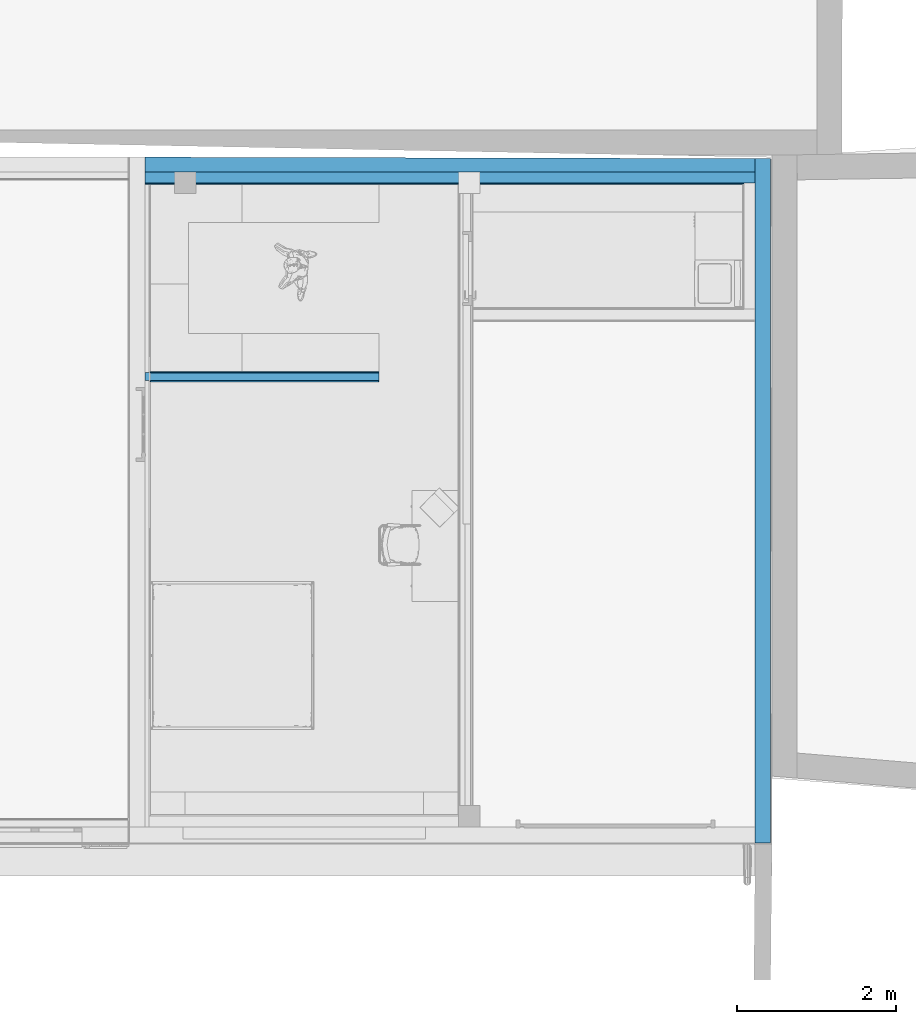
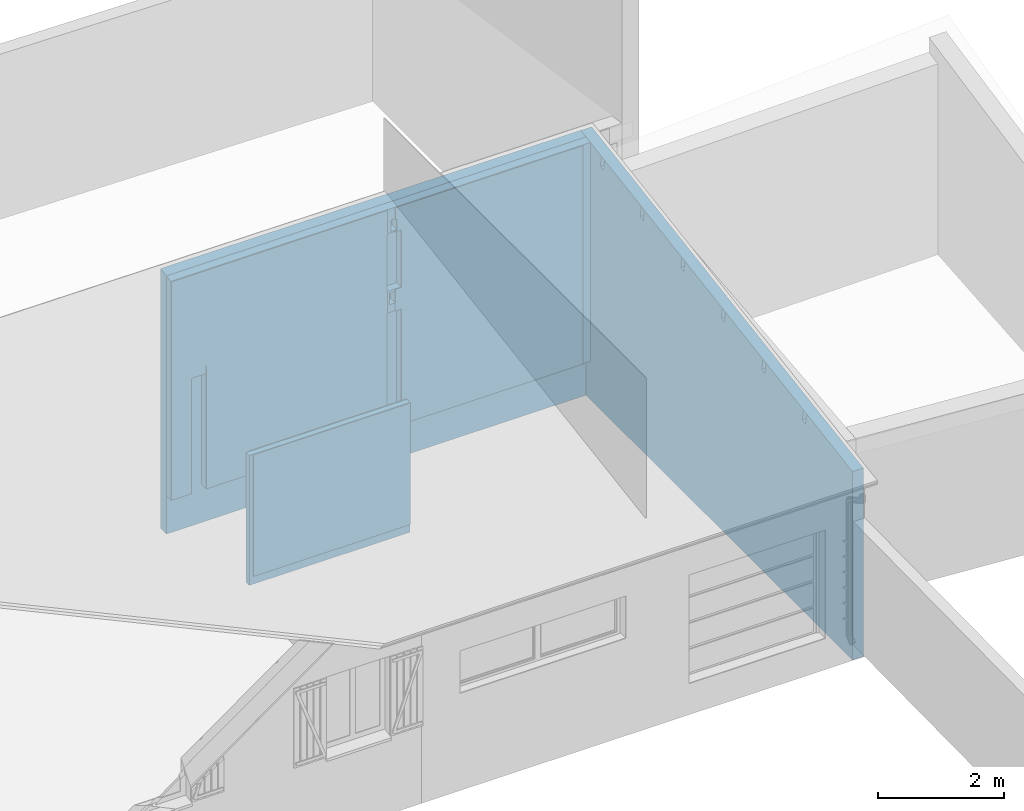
# One storey, part 16 of 24: 7 building element parts, 4 elements without a shape of their own.
"""IFC2X3 building model written with IfcOpenShell, lengths in metres."""

from ifc_helpers import new_model, entity, si_unit, converted_unit, derived_unit, money_unit, direction, frame, origin_with_axes, place, context, subcontext, project, spatial, polyline, outline, extrude, boolean, faceted_brep, material, type_object, element, aggregate, save


model = new_model("IFC2X3")

# Units and contexts
model_context = context("Model", 3, precision=1e-05, world=origin_with_axes(), true_north=direction((0.0, 1.0)))
body_context = subcontext(model_context, "Body", "Model", "MODEL_VIEW")
ifc_project = project(units=[si_unit("LENGTHUNIT", "METRE"), si_unit("AREAUNIT", "SQUARE_METRE"), si_unit("VOLUMEUNIT", "CUBIC_METRE"), converted_unit("PLANEANGLEUNIT", "DEGREE", entity("IfcPlaneAngleMeasure", 0.0174532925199), si_unit("PLANEANGLEUNIT", "RADIAN"), dimensions=[0, 0, 0, 0, 0, 0, 0]), si_unit("SOLIDANGLEUNIT", "STERADIAN"), money_unit("CHF"), converted_unit("TIMEUNIT", "Year", entity("IfcTimeMeasure", 31556926.0), si_unit("TIMEUNIT", "SECOND"), dimensions=[0, 0, 1, 0, 0, 0, 0]), si_unit("MASSUNIT", "GRAM", prefix="KILO"), si_unit("THERMODYNAMICTEMPERATUREUNIT", "DEGREE_CELSIUS"), si_unit("LUMINOUSINTENSITYUNIT", "LUMEN"), si_unit("ENERGYUNIT", "JOULE", prefix="MEGA"), derived_unit("THERMALCONDUCTANCEUNIT", [(si_unit("POWERUNIT", "WATT"), 1), (si_unit("LENGTHUNIT", "METRE"), -1), (si_unit("THERMODYNAMICTEMPERATUREUNIT", "KELVIN"), -1)]), derived_unit("SPECIFICHEATCAPACITYUNIT", [(si_unit("ENERGYUNIT", "JOULE"), 1), (si_unit("MASSUNIT", "GRAM", prefix="KILO"), -1), (si_unit("THERMODYNAMICTEMPERATUREUNIT", "KELVIN"), -1)]), derived_unit("MASSDENSITYUNIT", [(si_unit("MASSUNIT", "GRAM", prefix="KILO"), 1), (si_unit("VOLUMEUNIT", "CUBIC_METRE"), -1)])], contexts=[model_context])

# Site, building, storey
site_placement = place(None, origin_with_axes())
site = spatial("IfcSite", under=ifc_project, at=site_placement, Name="Site", CompositionType="ELEMENT")
building_placement = place(site_placement, origin_with_axes())
building = spatial("IfcBuilding", under=site, at=building_placement, Name="Bâtiment", CompositionType="ELEMENT")
storey_placement = place(building_placement, origin_with_axes())
storey = spatial("IfcBuildingStorey", under=building, at=storey_placement, Name="Rez-de-chaussée", CompositionType="ELEMENT", Elevation=0.0)

# Wall, building element part
wall_type_1 = type_object("IfcWallType", Name="0.0 - Mur ext: revét ext + maçonnerie 215", PredefinedType="ELEMENTEDWALL")
wall_1_placement = place(storey_placement, frame((23.6021417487, 16.1929346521, -0.6), z_axis=(0.0, 0.0, 1.0), x_axis=(1.0, 0.0, 0.0)))
wall_1 = element("IfcWall", 1, at=wall_1_placement, inside=storey, type_object=wall_type_1, Name="MUR_EXT-004", ObjectType="ELEMENTEDWALL")
ifc_material_1 = material(Name="Brique ciment (extérieur)")
building_element_part_1_placement = place(wall_1_placement, origin_with_axes())
building_element_part_1 = element("IfcBuildingElementPart", 2, at=building_element_part_1_placement, material=ifc_material_1, Name="Brique ciment (extérieur)", context=body_context, shape_type="CSG", body=[
    boolean("DIFFERENCE", boolean("DIFFERENCE", extrude(outline(polyline([(-0.215, 0.0), (7.885, 0.0), (7.885, 0.2), (-0.215, 0.2), (-0.215, 0.0)])), origin_with_axes(), (0.0, 0.0, 1.0), 5.5967588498), faceted_brep([(0.0, 0.186019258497, 0.0), (0.0, 0.0, 0.0), (-0.215, 0.0, 0.0), (-0.215, 0.2, 0.0), (7.885, 0.2, 0.0), (7.885, 0.0, 0.0), (7.67, 0.0, 0.0), (7.67, 0.168143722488, 0.0), (0.0, 0.186019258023, 5.02256308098), (0.0, 0.0, 4.9927999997), (7.67, 0.0, 4.9927999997), (7.885, 0.0, 5.5967588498), (-0.215, 0.0, 5.5967588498), (-0.215, 0.2, 5.5967588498), (7.885, 0.2, 5.5967588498), (7.67, 0.168143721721, 5.01970299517)], [[[0, 1, 2, 3, 4, 5, 6, 7]], [[1, 0, 8, 9]], [[10, 6, 5, 11, 12, 2, 1, 9]], [[13, 3, 2, 12]], [[14, 4, 3, 13]], [[11, 5, 4, 14]], [[7, 6, 10, 15]], [[0, 7, 15, 8]], [[10, 9, 8, 15]], [[13, 12, 11, 14]]])), faceted_brep([(-0.215, 0.2, 5.5967588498), (-0.215, 0.2, 0.0), (7.885, 0.2, 0.0), (7.885, 0.2, 5.5967588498), (-0.215, 0.215, 5.5967588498), (-0.215, 0.215, 0.0), (7.885, 0.215, 0.0), (7.885, 0.215, 5.5967588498)], [[[0, 1, 2, 3]], [[4, 5, 1, 0]], [[2, 1, 5, 6]], [[3, 2, 6, 7]], [[4, 0, 3, 7]], [[7, 6, 5, 4]]])),
])
aggregate(wall_1, [building_element_part_1])

wall_2_placement = place(storey_placement, frame((31.2721417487, 16.1929346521, -0.6), z_axis=(0.0, 0.0, 1.0), x_axis=(0.0, -1.0, 0.0)))
wall_2 = element("IfcWall", 3, at=wall_2_placement, inside=storey, type_object=wall_type_1, Name="MUR_EXT-001", ObjectType="ELEMENTEDWALL")
building_element_part_2_placement = place(wall_2_placement, origin_with_axes())
building_element_part_2 = element("IfcBuildingElementPart", 4, at=building_element_part_2_placement, material=ifc_material_1, Name="Brique ciment (extérieur)", context=body_context, shape_type="CSG", body=[
    boolean("DIFFERENCE", boolean("DIFFERENCE", boolean("DIFFERENCE", boolean("DIFFERENCE", boolean("DIFFERENCE", boolean("DIFFERENCE", boolean("DIFFERENCE", boolean("DIFFERENCE", extrude(outline(polyline([(-0.215, 0.0), (8.455, 0.0), (8.455, 0.2), (-0.215, 0.2), (-0.215, 0.0)])), origin_with_axes(), (0.0, 0.0, 1.0), 5.5967588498), faceted_brep([(6.98500770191, 0.0, 3.87376334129), (6.88626356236, 0.0, 3.88956191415), (6.85150670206, 0.0, 3.67232480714), (6.95025084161, 0.0, 3.65652623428), (6.98500770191, 0.0733046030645, 3.87376334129), (6.88626356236, 0.0733046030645, 3.88956191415), (6.85150670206, 0.0733046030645, 3.67232480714), (6.95025084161, 0.0733046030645, 3.65652623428)], [[[0, 1, 2, 3]], [[1, 0, 4, 5]], [[2, 1, 5, 6]], [[3, 2, 6, 7]], [[0, 3, 7, 4]], [[4, 7, 6, 5]]])), faceted_brep([(5.70133388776, 0.0, 4.0791447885), (5.60258974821, 0.0, 4.09494336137), (5.56783288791, 0.0, 3.87770625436), (5.66657702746, 0.0, 3.86190768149), (5.70133388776, 0.0733046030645, 4.0791447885), (5.60258974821, 0.0733046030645, 4.09494336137), (5.56783288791, 0.0733046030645, 3.87770625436), (5.66657702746, 0.0733046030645, 3.86190768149)], [[[0, 1, 2, 3]], [[1, 0, 4, 5]], [[2, 1, 5, 6]], [[3, 2, 6, 7]], [[0, 3, 7, 4]], [[4, 7, 6, 5]]])), faceted_brep([(4.4176600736, 0.0, 4.28452623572), (4.31891593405, 0.0, 4.30032480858), (4.28415907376, 0.0, 4.08308770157), (4.38290321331, 0.0, 4.06728912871), (4.4176600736, 0.0733046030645, 4.28452623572), (4.31891593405, 0.0733046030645, 4.30032480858), (4.28415907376, 0.0733046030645, 4.08308770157), (4.38290321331, 0.0733046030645, 4.06728912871)], [[[0, 1, 2, 3]], [[1, 0, 4, 5]], [[2, 1, 5, 6]], [[3, 2, 6, 7]], [[0, 3, 7, 4]], [[4, 7, 6, 5]]])), faceted_brep([(3.13398625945, 0.0, 4.48990768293), (3.0352421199, 0.0, 4.5057062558), (3.0004852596, 0.0, 4.28846914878), (3.09922939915, 0.0, 4.27267057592), (3.13398625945, 0.0733046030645, 4.48990768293), (3.0352421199, 0.0733046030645, 4.5057062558), (3.0004852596, 0.0733046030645, 4.28846914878), (3.09922939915, 0.0733046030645, 4.27267057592)], [[[0, 1, 2, 3]], [[1, 0, 4, 5]], [[2, 1, 5, 6]], [[3, 2, 6, 7]], [[0, 3, 7, 4]], [[4, 7, 6, 5]]])), faceted_brep([(1.8503124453, 0.0, 4.69528913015), (1.75156830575, 0.0, 4.71108770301), (1.71681144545, 0.0, 4.493850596), (1.815555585, 0.0, 4.47805202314), (1.8503124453, 0.0733046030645, 4.69528913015), (1.75156830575, 0.0733046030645, 4.71108770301), (1.71681144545, 0.0733046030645, 4.493850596), (1.815555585, 0.0733046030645, 4.47805202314)], [[[0, 1, 2, 3]], [[1, 0, 4, 5]], [[2, 1, 5, 6]], [[3, 2, 6, 7]], [[0, 3, 7, 4]], [[4, 7, 6, 5]]])), faceted_brep([(0.589167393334, 0.0, 4.89706608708), (0.490423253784, 0.0, 4.91286465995), (0.455666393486, 0.0, 4.69562755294), (0.554410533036, 0.0, 4.67982898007), (0.589167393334, 0.0733046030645, 4.89706608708), (0.490423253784, 0.0733046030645, 4.91286465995), (0.455666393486, 0.0733046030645, 4.69562755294), (0.554410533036, 0.0733046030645, 4.67982898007)], [[[0, 1, 2, 3]], [[1, 0, 4, 5]], [[2, 1, 5, 6]], [[3, 2, 6, 7]], [[0, 3, 7, 4]], [[4, 7, 6, 5]]])), faceted_brep([(8.44, 0.2, 0.0), (8.44, 0.2, 3.6423999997), (-0.167677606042, 0.2, 5.01962841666), (-0.167677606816, 0.2, 0.0), (-0.215, 0.2, 0.0), (-0.215, 0.2, 5.5967588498), (8.455, 0.2, 5.5967588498), (8.455, 0.2, 0.0), (8.44, 0.0, 0.0), (8.44, 0.0, 3.6423999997), (-0.168143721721, 0.0, 5.01970299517), (-0.168143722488, 0.0, 0.0), (-0.215, 0.0, 0.0), (-0.215, 0.0, 5.5967588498), (8.455, 0.0, 5.5967588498), (8.455, 0.0, 0.0)], [[[0, 1, 2, 3, 4, 5, 6, 7]], [[1, 0, 8, 9]], [[9, 10, 2, 1]], [[11, 3, 2, 10]], [[3, 11, 12, 4]], [[5, 4, 12, 13]], [[5, 13, 14, 6]], [[14, 15, 7, 6]], [[8, 0, 7, 15]], [[9, 8, 15, 14, 13, 12, 11, 10]]])), faceted_brep([(-0.167642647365, 0.21500000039, 5.01962282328), (-0.167642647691, 0.215000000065, 0.0), (-0.215, 0.215, 0.0), (-0.215, 0.215, 5.5967588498), (8.455, 0.215, 5.5967588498), (8.455, 0.21500000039, 3.6399999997), (-0.167677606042, 0.2, 5.01962841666), (-0.167677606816, 0.2, 0.0), (-0.215, 0.2, 0.0), (-0.215, 0.2, 5.5967588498), (8.455, 0.2, 5.5967588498), (8.455, 0.2, 3.6399999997)], [[[0, 1, 2, 3, 4, 5]], [[1, 0, 6, 7]], [[1, 7, 8, 2]], [[3, 2, 8, 9]], [[3, 9, 10, 4]], [[11, 5, 4, 10]], [[0, 5, 11, 6]], [[11, 10, 9, 8, 7, 6]]])),
])
aggregate(wall_2, [building_element_part_2])

# Wall, building element parts
wall_type_2 = type_object("IfcWallType", Name="2.4 - Mur int. - Brique TC 10cm (non-porteur) 130", PredefinedType="ELEMENTEDWALL")
wall_3_placement = place(storey_placement, frame((23.6021417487, 13.6823407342, -0.13), z_axis=(0.0, 0.0, 1.0), x_axis=(1.0, 0.0, 0.0)))
wall_3 = element("IfcWall", 5, at=wall_3_placement, inside=storey, type_object=wall_type_2, Name="MUR_EXT-012", ObjectType="ELEMENTEDWALL")
ifc_material_2 = material(Name="Finition int - Enduit plâtre")
building_element_part_3_placement = place(wall_3_placement, origin_with_axes())
building_element_part_3 = element("IfcBuildingElementPart", 6, at=building_element_part_3_placement, material=ifc_material_2, Name="Finition int - Enduit plâtre", context=body_context, shape_type="CSG", body=[
    boolean("DIFFERENCE", boolean("DIFFERENCE", boolean("DIFFERENCE", extrude(outline(polyline([(-0.215, -0.13), (2.94, -0.13), (2.94, -0.115), (-0.215, -0.115), (-0.215, -0.13)])), origin_with_axes(), (0.0, 0.0, 1.0), 2.63999999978), faceted_brep([(0.065, -0.115, 2.63999999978), (0.065, -0.115, 0.29), (2.94, -0.115, 0.29), (2.94, -0.115, 0.0), (-0.215, -0.115, 0.0), (-0.215, -0.115, 2.63999999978), (0.065, -0.13, 2.63999999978), (0.065, -0.13, 0.29), (2.94, -0.13, 0.29), (2.94, -0.13, 0.0), (-0.215, -0.13, 0.0), (-0.215, -0.13, 2.63999999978)], [[[0, 1, 2, 3, 4, 5]], [[1, 0, 6, 7]], [[8, 2, 1, 7]], [[2, 8, 9, 3]], [[9, 10, 4, 3]], [[5, 4, 10, 11]], [[6, 0, 5, 11]], [[7, 6, 11, 10, 9, 8]]])), faceted_brep([(3.70959689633e-08, -0.015, 2.63999999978), (0.0, -0.015, 0.13), (2.94, -0.015, 0.13), (2.94, -0.015, 0.0), (-0.215, -0.015, 0.0), (-0.215, -0.015, 2.63999999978), (3.64703396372e-08, -0.115, 2.63999999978), (0.0, -0.115, 0.13), (2.94, -0.115, 0.13), (2.94, -0.115, 0.0), (-0.215, -0.115, 0.0), (-0.215, -0.115, 2.63999999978)], [[[0, 1, 2, 3, 4, 5]], [[1, 0, 6, 7]], [[8, 2, 1, 7]], [[2, 8, 9, 3]], [[9, 10, 4, 3]], [[5, 4, 10, 11]], [[6, 0, 5, 11]], [[7, 6, 11, 10, 9, 8]]])), faceted_brep([(0.065, 0.0, 2.63999999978), (0.065, 0.0, 0.29), (2.94, 0.0, 0.29), (2.94, 0.0, 0.0), (-0.215, 0.0, 0.0), (-0.215, 0.0, 2.63999999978), (0.065, -0.015, 2.63999999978), (0.065, -0.015, 0.29), (2.94, -0.015, 0.29), (2.94, -0.015, 0.0), (-0.215, -0.015, 0.0), (-0.215, -0.015, 2.63999999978)], [[[0, 1, 2, 3, 4, 5]], [[1, 0, 6, 7]], [[8, 2, 1, 7]], [[2, 8, 9, 3]], [[9, 10, 4, 3]], [[5, 4, 10, 11]], [[6, 0, 5, 11]], [[7, 6, 11, 10, 9, 8]]])),
])
ifc_material_3 = material(Name="Brique terre-cuite (intérieur)")
building_element_part_4_placement = place(wall_3_placement, origin_with_axes())
building_element_part_4 = element("IfcBuildingElementPart", 7, at=building_element_part_4_placement, material=ifc_material_3, Name="Brique terre-cuite (intérieur)", context=body_context, shape_type="CSG", body=[
    boolean("DIFFERENCE", boolean("DIFFERENCE", boolean("DIFFERENCE", extrude(outline(polyline([(-0.215, -0.115), (2.94, -0.115), (2.94, -0.015), (-0.215, -0.015), (-0.215, -0.115)])), origin_with_axes(), (0.0, 0.0, 1.0), 2.63999999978), faceted_brep([(0.065, -0.115, 2.63999999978), (0.065, -0.115, 0.29), (2.94, -0.115, 0.29), (2.94, -0.115, 0.0), (-0.215, -0.115, 0.0), (-0.215, -0.115, 2.63999999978), (0.065, -0.13, 2.63999999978), (0.065, -0.13, 0.29), (2.94, -0.13, 0.29), (2.94, -0.13, 0.0), (-0.215, -0.13, 0.0), (-0.215, -0.13, 2.63999999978)], [[[0, 1, 2, 3, 4, 5]], [[1, 0, 6, 7]], [[8, 2, 1, 7]], [[2, 8, 9, 3]], [[9, 10, 4, 3]], [[5, 4, 10, 11]], [[6, 0, 5, 11]], [[7, 6, 11, 10, 9, 8]]])), faceted_brep([(3.70959689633e-08, -0.015, 2.63999999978), (0.0, -0.015, 0.13), (2.94, -0.015, 0.13), (2.94, -0.015, 0.0), (-0.215, -0.015, 0.0), (-0.215, -0.015, 2.63999999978), (3.64703396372e-08, -0.115, 2.63999999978), (0.0, -0.115, 0.13), (2.94, -0.115, 0.13), (2.94, -0.115, 0.0), (-0.215, -0.115, 0.0), (-0.215, -0.115, 2.63999999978)], [[[0, 1, 2, 3, 4, 5]], [[1, 0, 6, 7]], [[8, 2, 1, 7]], [[2, 8, 9, 3]], [[9, 10, 4, 3]], [[5, 4, 10, 11]], [[6, 0, 5, 11]], [[7, 6, 11, 10, 9, 8]]])), faceted_brep([(0.065, 0.0, 2.63999999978), (0.065, 0.0, 0.29), (2.94, 0.0, 0.29), (2.94, 0.0, 0.0), (-0.215, 0.0, 0.0), (-0.215, 0.0, 2.63999999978), (0.065, -0.015, 2.63999999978), (0.065, -0.015, 0.29), (2.94, -0.015, 0.29), (2.94, -0.015, 0.0), (-0.215, -0.015, 0.0), (-0.215, -0.015, 2.63999999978)], [[[0, 1, 2, 3, 4, 5]], [[1, 0, 6, 7]], [[8, 2, 1, 7]], [[2, 8, 9, 3]], [[9, 10, 4, 3]], [[5, 4, 10, 11]], [[6, 0, 5, 11]], [[7, 6, 11, 10, 9, 8]]])),
])
building_element_part_5_placement = place(wall_3_placement, origin_with_axes())
building_element_part_5 = element("IfcBuildingElementPart", 8, at=building_element_part_5_placement, material=ifc_material_2, Name="Finition int - Enduit plâtre", context=body_context, shape_type="CSG", body=[
    boolean("DIFFERENCE", boolean("DIFFERENCE", boolean("DIFFERENCE", extrude(outline(polyline([(-0.215, -0.015), (2.94, -0.015), (2.94, 0.0), (-0.215, 0.0), (-0.215, -0.015)])), origin_with_axes(), (0.0, 0.0, 1.0), 2.63999999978), faceted_brep([(0.065, -0.115, 2.63999999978), (0.065, -0.115, 0.29), (2.94, -0.115, 0.29), (2.94, -0.115, 0.0), (-0.215, -0.115, 0.0), (-0.215, -0.115, 2.63999999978), (0.065, -0.13, 2.63999999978), (0.065, -0.13, 0.29), (2.94, -0.13, 0.29), (2.94, -0.13, 0.0), (-0.215, -0.13, 0.0), (-0.215, -0.13, 2.63999999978)], [[[0, 1, 2, 3, 4, 5]], [[1, 0, 6, 7]], [[8, 2, 1, 7]], [[2, 8, 9, 3]], [[9, 10, 4, 3]], [[5, 4, 10, 11]], [[6, 0, 5, 11]], [[7, 6, 11, 10, 9, 8]]])), faceted_brep([(3.70959689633e-08, -0.015, 2.63999999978), (0.0, -0.015, 0.13), (2.94, -0.015, 0.13), (2.94, -0.015, 0.0), (-0.215, -0.015, 0.0), (-0.215, -0.015, 2.63999999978), (3.64703396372e-08, -0.115, 2.63999999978), (0.0, -0.115, 0.13), (2.94, -0.115, 0.13), (2.94, -0.115, 0.0), (-0.215, -0.115, 0.0), (-0.215, -0.115, 2.63999999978)], [[[0, 1, 2, 3, 4, 5]], [[1, 0, 6, 7]], [[8, 2, 1, 7]], [[2, 8, 9, 3]], [[9, 10, 4, 3]], [[5, 4, 10, 11]], [[6, 0, 5, 11]], [[7, 6, 11, 10, 9, 8]]])), faceted_brep([(0.065, 0.0, 2.63999999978), (0.065, 0.0, 0.29), (2.94, 0.0, 0.29), (2.94, 0.0, 0.0), (-0.215, 0.0, 0.0), (-0.215, 0.0, 2.63999999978), (0.065, -0.015, 2.63999999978), (0.065, -0.015, 0.29), (2.94, -0.015, 0.29), (2.94, -0.015, 0.0), (-0.215, -0.015, 0.0), (-0.215, -0.015, 2.63999999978)], [[[0, 1, 2, 3, 4, 5]], [[1, 0, 6, 7]], [[8, 2, 1, 7]], [[2, 8, 9, 3]], [[9, 10, 4, 3]], [[5, 4, 10, 11]], [[6, 0, 5, 11]], [[7, 6, 11, 10, 9, 8]]])),
])
aggregate(wall_3, [building_element_part_3, building_element_part_4, building_element_part_5])

wall_type_3 = type_object("IfcWallType", Name="3.3b - Cloison doublage isolation + plâtre 1 face 155", PredefinedType="ELEMENTEDWALL")
wall_4_placement = place(storey_placement, frame((31.2721417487, 16.1929346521, -0.13), z_axis=(0.0, 0.0, 1.0), x_axis=(-1.0, 0.0, 0.0)))
wall_4 = element("IfcWall", 9, at=wall_4_placement, inside=storey, type_object=wall_type_3, Name="MUR_EXT-010", ObjectType="ELEMENTEDWALL")
ifc_material_4 = material(Name="Finition int - Plaque de plâtre")
building_element_part_6_placement = place(wall_4_placement, origin_with_axes())
building_element_part_6 = element("IfcBuildingElementPart", 10, at=building_element_part_6_placement, material=ifc_material_4, Name="Finition int - Plaque de plâtre", context=body_context, shape_type="CSG", body=[
    boolean("DIFFERENCE", boolean("DIFFERENCE", boolean("DIFFERENCE", boolean("DIFFERENCE", boolean("DIFFERENCE", extrude(outline(polyline([(-0.215, 0.14), (7.885, 0.14), (7.885, 0.155), (-0.215, 0.155), (-0.215, 0.14)])), origin_with_axes(), (0.0, 0.0, 1.0), 6.01874511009), faceted_brep([(7.885, 0.155, 6.01874511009), (7.885, 0.155, 0.0), (-0.215, 0.155, 0.0), (-0.215, 0.155, 6.01874511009), (7.67, 0.154999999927, 0.275), (7.67, 0.154999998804, 4.49799999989), (3.715, 0.154999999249, 4.49799999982), (3.715, 0.154999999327, 4.03253522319), (3.73, 0.154999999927, 4.03253522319), (3.73, 0.154999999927, 2.92), (3.715, 0.154999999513, 2.92), (3.715, 0.154999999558, 2.65156535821), (3.73, 0.154999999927, 2.65156535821), (3.73, 0.154999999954, 0.275), (7.03, 0.154999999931, 0.275), (7.03, 0.154999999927, 2.65156535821), (7.3, 0.154999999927, 2.65156535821), (7.3, 0.154999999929, 0.275), (3.575, 0.154999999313, 4.27373268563), (3.575, 0.154999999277, 4.49799999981), (0.14, 0.154999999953, 4.49799999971), (0.14, 0.154999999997, 0.275), (3.46, 0.154999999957, 0.275), (3.46, 0.154999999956, 2.65156535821), (3.57, 0.154999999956, 2.65156535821), (3.57, 0.154999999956, 2.87156535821), (3.575, 0.154999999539, 2.87156535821), (3.575, 0.154999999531, 2.92), (3.46, 0.154999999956, 2.92), (3.46, 0.154999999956, 4.03253522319), (3.575, 0.154999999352, 4.03253522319), (3.575, 0.154999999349, 4.05093465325), (3.545, 0.154999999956, 4.05093465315), (3.545, 0.154999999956, 4.27373268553), (7.885, 0.14, 6.01874511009), (7.885, 0.14, 0.0), (-0.215, 0.14, 0.0), (-0.215, 0.14, 6.01874511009), (7.67, 0.140000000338, 0.275), (7.67, 0.140000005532, 4.50039999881), (3.715, 0.140000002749, 4.50039999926), (3.715, 0.140000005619, 4.03253522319), (3.73, 0.140000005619, 4.03253522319), (3.73, 0.140000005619, 2.92), (3.715, 0.140000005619, 2.92), (3.715, 0.140000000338, 2.50156535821), (3.715, 0.15, 2.50156535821), (3.715, 0.15, 2.65156535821), (3.73, 0.15, 2.65156535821), (3.73, 0.15, 2.50156535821), (3.73, 0.140000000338, 2.50156535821), (3.73, 0.140000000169, 0.275), (7.03, 0.140000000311, 0.275), (7.03, 0.140000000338, 2.50156535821), (7.03, 0.15, 2.50156535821), (7.03, 0.15, 2.65156535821), (7.3, 0.15, 2.65156535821), (7.3, 0.15, 2.50156535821), (7.3, 0.140000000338, 2.50156535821), (7.3, 0.140000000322, 0.275), (3.575, 0.140000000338, 4.27613261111), (3.575, 0.14000000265, 4.50039999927), (0.14, 0.140000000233, 4.50039999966), (0.14, 0.140000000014, 0.275), (3.46, 0.140000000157, 0.275), (3.46, 0.140000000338, 2.50156535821), (3.46, 0.15, 2.50156535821), (3.46, 0.15, 2.65156535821), (3.57, 0.15, 2.65156535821), (3.57, 0.140000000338, 2.65156535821), (3.57, 0.140000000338, 2.87156535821), (3.575, 0.140000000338, 2.87156535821), (3.575, 0.140000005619, 2.92), (3.46, 0.140000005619, 2.92), (3.46, 0.140000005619, 4.03253522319), (3.575, 0.140000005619, 4.03253522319), (3.575, 0.140000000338, 4.05333457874), (3.545, 0.140000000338, 4.05333457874), (3.545, 0.140000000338, 4.27613261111), (3.575, 0.140000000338, 2.65156535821), (3.575, 0.140000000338, 2.50156535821), (3.575, 0.15, 2.50156535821), (3.575, 0.15, 2.65156535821)], [[[0, 1, 2, 3], [4, 5, 6, 7, 8, 9, 10, 11, 12, 13, 14, 15, 16, 17], [18, 19, 20, 21, 22, 23, 24, 25, 26, 27, 28, 29, 30, 31, 32, 33]], [[34, 35, 1, 0]], [[35, 36, 2, 1]], [[3, 2, 36, 37]], [[3, 37, 34, 0]], [[5, 4, 38, 39]], [[6, 5, 39, 40]], [[40, 41, 7, 6]], [[8, 7, 41, 42]], [[9, 8, 42, 43]], [[10, 9, 43, 44]], [[44, 45, 46, 47, 11, 10]], [[12, 11, 47, 48]], [[13, 12, 48, 49, 50, 51]], [[14, 13, 51, 52]], [[15, 14, 52, 53, 54, 55]], [[16, 15, 55, 56]], [[17, 16, 56, 57, 58, 59]], [[4, 17, 59, 38]], [[60, 61, 19, 18]], [[20, 19, 61, 62]], [[62, 63, 21, 20]], [[22, 21, 63, 64]], [[23, 22, 64, 65, 66, 67]], [[24, 23, 67, 68]], [[25, 24, 68, 69, 70]], [[26, 25, 70, 71]], [[71, 72, 27, 26]], [[28, 27, 72, 73]], [[29, 28, 73, 74]], [[30, 29, 74, 75]], [[75, 76, 31, 30]], [[32, 31, 76, 77]], [[33, 32, 77, 78]], [[18, 33, 78, 60]], [[37, 36, 35, 34], [42, 41, 40, 39, 38, 59, 58, 53, 52, 51, 50, 45, 44, 43], [64, 63, 62, 61, 60, 78, 77, 76, 75, 74, 73, 72, 71, 70, 69, 79, 80, 65]], [[50, 49, 46, 45]], [[47, 46, 49, 48]], [[58, 57, 54, 53]], [[55, 54, 57, 56]], [[80, 81, 66, 65]], [[81, 82, 68, 67, 66]], [[69, 68, 82, 79]], [[80, 79, 82, 81]]])), faceted_brep([(3.67, 0.140000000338, 2.65156535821), (3.57, 0.140000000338, 2.65156535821), (3.57, 0.140000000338, 2.87156535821), (3.67, 0.140000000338, 2.87156535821), (3.67, 0.0, 2.65156535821), (3.57, 0.0, 2.65156535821), (3.57, 0.0, 2.87156535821), (3.67, 0.0, 2.87156535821)], [[[0, 1, 2, 3]], [[4, 5, 1, 0]], [[5, 6, 2, 1]], [[6, 7, 3, 2]], [[7, 4, 0, 3]], [[4, 7, 6, 5]]])), faceted_brep([(3.645, 0.140000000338, 4.05333457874), (3.545, 0.140000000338, 4.05333457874), (3.545, 0.140000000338, 4.27613261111), (3.645, 0.140000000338, 4.27613261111), (3.645, 0.00510695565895, 4.07491679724), (3.545, 0.00510695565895, 4.07491679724), (3.545, 0.00510695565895, 4.29771482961), (3.645, 0.00510695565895, 4.29771482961)], [[[0, 1, 2, 3]], [[0, 4, 5, 1]], [[1, 5, 6, 2]], [[3, 2, 6, 7]], [[0, 3, 7, 4]], [[5, 4, 7, 6]]])), faceted_brep([(3.46, 0.140000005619, 2.92), (3.46, 0.140000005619, 4.03253522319), (3.73, 0.140000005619, 4.03253522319), (3.73, 0.140000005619, 2.92), (3.46, 0.0, 2.92), (3.46, 0.0, 4.03253522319), (3.73, 0.0, 4.03253522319), (3.73, 0.0, 2.92)], [[[0, 1, 2, 3]], [[4, 5, 1, 0]], [[5, 6, 2, 1]], [[6, 7, 3, 2]], [[7, 4, 0, 3]], [[7, 6, 5, 4]]])), faceted_brep([(7.885, 0.14, 6.01874511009), (7.885, 0.14, 0.0), (-0.215, 0.14, 0.0), (-0.215, 0.14, 6.01874511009), (0.0, 0.140000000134, 4.50039999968), (5.51693801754e-09, 0.140000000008, 0.275), (3.46, 0.140000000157, 0.275), (3.46, 0.140000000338, 2.50156535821), (3.73, 0.140000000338, 2.50156535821), (3.73, 0.140000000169, 0.275), (7.03, 0.140000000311, 0.275), (7.03, 0.140000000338, 2.50156535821), (7.3, 0.140000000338, 2.50156535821), (7.3, 0.140000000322, 0.275), (7.67, 0.140000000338, 0.275), (7.67, 0.140000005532, 4.50039999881), (7.885, 0.0, 6.01874511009), (7.885, 0.0, 0.0), (-0.215, 0.0, 0.0), (-0.215, 0.0, 6.01874511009), (0.0, 0.0, 4.5227999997), (5.96046945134e-09, 0.0, 0.275), (3.46, 0.0, 0.275), (3.46, 0.0, 2.50156535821), (3.73, 0.0, 2.50156535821), (3.73, 0.0, 0.275), (7.03, 0.0, 0.275), (7.03, 0.0, 2.50156535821), (7.3, 0.0, 2.50156535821), (7.3, 0.0, 0.275), (7.67, 0.0, 0.275), (7.67, 1.87377224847e-10, 4.52279999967)], [[[0, 1, 2, 3], [4, 5, 6, 7, 8, 9, 10, 11, 12, 13, 14, 15]], [[16, 17, 1, 0]], [[17, 18, 2, 1]], [[3, 2, 18, 19]], [[3, 19, 16, 0]], [[20, 21, 5, 4]], [[21, 22, 6, 5]], [[22, 23, 7, 6]], [[23, 24, 8, 7]], [[24, 25, 9, 8]], [[25, 26, 10, 9]], [[26, 27, 11, 10]], [[27, 28, 12, 11]], [[28, 29, 13, 12]], [[29, 30, 14, 13]], [[30, 31, 15, 14]], [[31, 20, 4, 15]], [[19, 18, 17, 16], [22, 21, 20, 31, 30, 29, 28, 27, 26, 25, 24, 23]]])),
])
ifc_material_5 = material(Name="Cloison - Isolation")
building_element_part_7_placement = place(wall_4_placement, origin_with_axes())
building_element_part_7 = element("IfcBuildingElementPart", 11, at=building_element_part_7_placement, material=ifc_material_5, Name="Cloison - Isolation", context=body_context, shape_type="CSG", body=[
    boolean("DIFFERENCE", boolean("DIFFERENCE", boolean("DIFFERENCE", boolean("DIFFERENCE", boolean("DIFFERENCE", extrude(outline(polyline([(-0.215, 0.0), (7.885, 0.0), (7.885, 0.14), (-0.215, 0.14), (-0.215, 0.0)])), origin_with_axes(), (0.0, 0.0, 1.0), 6.01874511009), faceted_brep([(7.885, 0.155, 6.01874511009), (7.885, 0.155, 0.0), (-0.215, 0.155, 0.0), (-0.215, 0.155, 6.01874511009), (7.67, 0.154999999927, 0.275), (7.67, 0.154999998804, 4.49799999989), (3.715, 0.154999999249, 4.49799999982), (3.715, 0.154999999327, 4.03253522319), (3.73, 0.154999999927, 4.03253522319), (3.73, 0.154999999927, 2.92), (3.715, 0.154999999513, 2.92), (3.715, 0.154999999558, 2.65156535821), (3.73, 0.154999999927, 2.65156535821), (3.73, 0.154999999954, 0.275), (7.03, 0.154999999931, 0.275), (7.03, 0.154999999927, 2.65156535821), (7.3, 0.154999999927, 2.65156535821), (7.3, 0.154999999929, 0.275), (3.575, 0.154999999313, 4.27373268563), (3.575, 0.154999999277, 4.49799999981), (0.14, 0.154999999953, 4.49799999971), (0.14, 0.154999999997, 0.275), (3.46, 0.154999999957, 0.275), (3.46, 0.154999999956, 2.65156535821), (3.57, 0.154999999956, 2.65156535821), (3.57, 0.154999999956, 2.87156535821), (3.575, 0.154999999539, 2.87156535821), (3.575, 0.154999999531, 2.92), (3.46, 0.154999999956, 2.92), (3.46, 0.154999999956, 4.03253522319), (3.575, 0.154999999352, 4.03253522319), (3.575, 0.154999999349, 4.05093465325), (3.545, 0.154999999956, 4.05093465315), (3.545, 0.154999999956, 4.27373268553), (7.885, 0.14, 6.01874511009), (7.885, 0.14, 0.0), (-0.215, 0.14, 0.0), (-0.215, 0.14, 6.01874511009), (7.67, 0.140000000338, 0.275), (7.67, 0.140000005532, 4.50039999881), (3.715, 0.140000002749, 4.50039999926), (3.715, 0.140000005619, 4.03253522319), (3.73, 0.140000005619, 4.03253522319), (3.73, 0.140000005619, 2.92), (3.715, 0.140000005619, 2.92), (3.715, 0.140000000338, 2.50156535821), (3.715, 0.15, 2.50156535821), (3.715, 0.15, 2.65156535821), (3.73, 0.15, 2.65156535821), (3.73, 0.15, 2.50156535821), (3.73, 0.140000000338, 2.50156535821), (3.73, 0.140000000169, 0.275), (7.03, 0.140000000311, 0.275), (7.03, 0.140000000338, 2.50156535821), (7.03, 0.15, 2.50156535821), (7.03, 0.15, 2.65156535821), (7.3, 0.15, 2.65156535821), (7.3, 0.15, 2.50156535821), (7.3, 0.140000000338, 2.50156535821), (7.3, 0.140000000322, 0.275), (3.575, 0.140000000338, 4.27613261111), (3.575, 0.14000000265, 4.50039999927), (0.14, 0.140000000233, 4.50039999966), (0.14, 0.140000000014, 0.275), (3.46, 0.140000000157, 0.275), (3.46, 0.140000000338, 2.50156535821), (3.46, 0.15, 2.50156535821), (3.46, 0.15, 2.65156535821), (3.57, 0.15, 2.65156535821), (3.57, 0.140000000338, 2.65156535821), (3.57, 0.140000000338, 2.87156535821), (3.575, 0.140000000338, 2.87156535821), (3.575, 0.140000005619, 2.92), (3.46, 0.140000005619, 2.92), (3.46, 0.140000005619, 4.03253522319), (3.575, 0.140000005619, 4.03253522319), (3.575, 0.140000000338, 4.05333457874), (3.545, 0.140000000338, 4.05333457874), (3.545, 0.140000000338, 4.27613261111), (3.575, 0.140000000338, 2.65156535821), (3.575, 0.140000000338, 2.50156535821), (3.575, 0.15, 2.50156535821), (3.575, 0.15, 2.65156535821)], [[[0, 1, 2, 3], [4, 5, 6, 7, 8, 9, 10, 11, 12, 13, 14, 15, 16, 17], [18, 19, 20, 21, 22, 23, 24, 25, 26, 27, 28, 29, 30, 31, 32, 33]], [[34, 35, 1, 0]], [[35, 36, 2, 1]], [[3, 2, 36, 37]], [[3, 37, 34, 0]], [[5, 4, 38, 39]], [[6, 5, 39, 40]], [[40, 41, 7, 6]], [[8, 7, 41, 42]], [[9, 8, 42, 43]], [[10, 9, 43, 44]], [[44, 45, 46, 47, 11, 10]], [[12, 11, 47, 48]], [[13, 12, 48, 49, 50, 51]], [[14, 13, 51, 52]], [[15, 14, 52, 53, 54, 55]], [[16, 15, 55, 56]], [[17, 16, 56, 57, 58, 59]], [[4, 17, 59, 38]], [[60, 61, 19, 18]], [[20, 19, 61, 62]], [[62, 63, 21, 20]], [[22, 21, 63, 64]], [[23, 22, 64, 65, 66, 67]], [[24, 23, 67, 68]], [[25, 24, 68, 69, 70]], [[26, 25, 70, 71]], [[71, 72, 27, 26]], [[28, 27, 72, 73]], [[29, 28, 73, 74]], [[30, 29, 74, 75]], [[75, 76, 31, 30]], [[32, 31, 76, 77]], [[33, 32, 77, 78]], [[18, 33, 78, 60]], [[37, 36, 35, 34], [42, 41, 40, 39, 38, 59, 58, 53, 52, 51, 50, 45, 44, 43], [64, 63, 62, 61, 60, 78, 77, 76, 75, 74, 73, 72, 71, 70, 69, 79, 80, 65]], [[50, 49, 46, 45]], [[47, 46, 49, 48]], [[58, 57, 54, 53]], [[55, 54, 57, 56]], [[80, 81, 66, 65]], [[81, 82, 68, 67, 66]], [[69, 68, 82, 79]], [[80, 79, 82, 81]]])), faceted_brep([(3.67, 0.140000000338, 2.65156535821), (3.57, 0.140000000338, 2.65156535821), (3.57, 0.140000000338, 2.87156535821), (3.67, 0.140000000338, 2.87156535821), (3.67, 0.0, 2.65156535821), (3.57, 0.0, 2.65156535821), (3.57, 0.0, 2.87156535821), (3.67, 0.0, 2.87156535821)], [[[0, 1, 2, 3]], [[4, 5, 1, 0]], [[5, 6, 2, 1]], [[6, 7, 3, 2]], [[7, 4, 0, 3]], [[4, 7, 6, 5]]])), faceted_brep([(3.645, 0.140000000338, 4.05333457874), (3.545, 0.140000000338, 4.05333457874), (3.545, 0.140000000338, 4.27613261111), (3.645, 0.140000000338, 4.27613261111), (3.645, 0.00510695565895, 4.07491679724), (3.545, 0.00510695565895, 4.07491679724), (3.545, 0.00510695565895, 4.29771482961), (3.645, 0.00510695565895, 4.29771482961)], [[[0, 1, 2, 3]], [[0, 4, 5, 1]], [[1, 5, 6, 2]], [[3, 2, 6, 7]], [[0, 3, 7, 4]], [[5, 4, 7, 6]]])), faceted_brep([(3.46, 0.140000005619, 2.92), (3.46, 0.140000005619, 4.03253522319), (3.73, 0.140000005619, 4.03253522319), (3.73, 0.140000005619, 2.92), (3.46, 0.0, 2.92), (3.46, 0.0, 4.03253522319), (3.73, 0.0, 4.03253522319), (3.73, 0.0, 2.92)], [[[0, 1, 2, 3]], [[4, 5, 1, 0]], [[5, 6, 2, 1]], [[6, 7, 3, 2]], [[7, 4, 0, 3]], [[7, 6, 5, 4]]])), faceted_brep([(7.885, 0.14, 6.01874511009), (7.885, 0.14, 0.0), (-0.215, 0.14, 0.0), (-0.215, 0.14, 6.01874511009), (0.0, 0.140000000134, 4.50039999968), (5.51693801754e-09, 0.140000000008, 0.275), (3.46, 0.140000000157, 0.275), (3.46, 0.140000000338, 2.50156535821), (3.73, 0.140000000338, 2.50156535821), (3.73, 0.140000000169, 0.275), (7.03, 0.140000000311, 0.275), (7.03, 0.140000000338, 2.50156535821), (7.3, 0.140000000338, 2.50156535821), (7.3, 0.140000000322, 0.275), (7.67, 0.140000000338, 0.275), (7.67, 0.140000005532, 4.50039999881), (7.885, 0.0, 6.01874511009), (7.885, 0.0, 0.0), (-0.215, 0.0, 0.0), (-0.215, 0.0, 6.01874511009), (0.0, 0.0, 4.5227999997), (5.96046945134e-09, 0.0, 0.275), (3.46, 0.0, 0.275), (3.46, 0.0, 2.50156535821), (3.73, 0.0, 2.50156535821), (3.73, 0.0, 0.275), (7.03, 0.0, 0.275), (7.03, 0.0, 2.50156535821), (7.3, 0.0, 2.50156535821), (7.3, 0.0, 0.275), (7.67, 0.0, 0.275), (7.67, 1.87377224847e-10, 4.52279999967)], [[[0, 1, 2, 3], [4, 5, 6, 7, 8, 9, 10, 11, 12, 13, 14, 15]], [[16, 17, 1, 0]], [[17, 18, 2, 1]], [[3, 2, 18, 19]], [[3, 19, 16, 0]], [[20, 21, 5, 4]], [[21, 22, 6, 5]], [[22, 23, 7, 6]], [[23, 24, 8, 7]], [[24, 25, 9, 8]], [[25, 26, 10, 9]], [[26, 27, 11, 10]], [[27, 28, 12, 11]], [[28, 29, 13, 12]], [[29, 30, 14, 13]], [[30, 31, 15, 14]], [[31, 20, 4, 15]], [[19, 18, 17, 16], [22, 21, 20, 31, 30, 29, 28, 27, 26, 25, 24, 23]]])),
])
aggregate(wall_4, [building_element_part_6, building_element_part_7])

save(model, "model.ifc")
